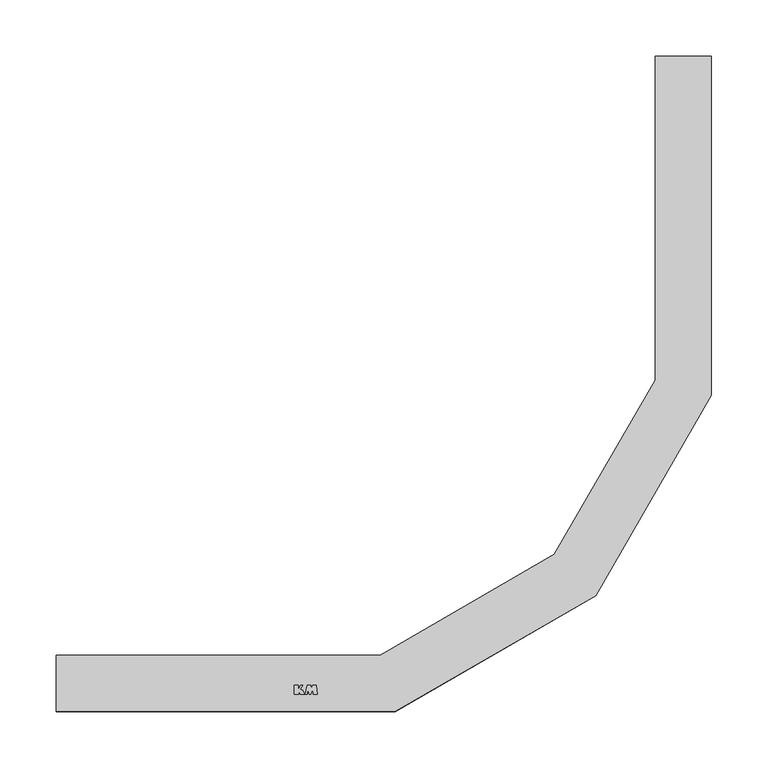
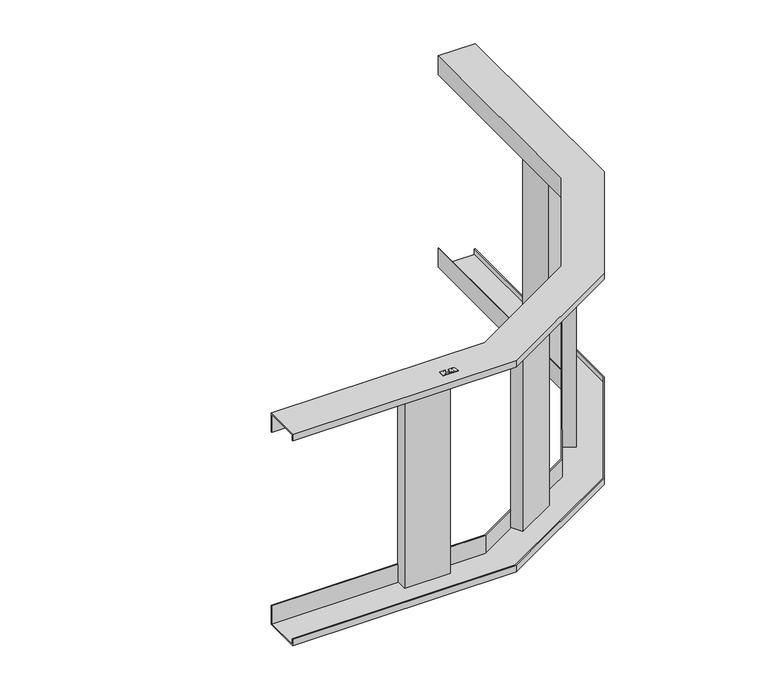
"""IFC4 building model written with IfcOpenShell, lengths in millimetres: cable carrier fitting geometry, КМ Профиль L Угол вертикальный внешний «Быстрый монтаж» 90° : Угол вертикальный внешний «Быстрый монтаж» 90°."""

from ifc_helpers import new_model, si_unit, frame, origin, place, context, project, spatial, polyline, outline, extrude, faceted_brep, source, transform, mapped, element, save


def cable_carrier_fitting_c130e9fd(model_context):
    return source(origin(), model_context, "Body", "SolidModel", [
        extrude(outline(polyline([(-344.2388781, -1.986157), (-340.7316192, -1.986157), (-340.7316192, -5.564509), (-338.8289757, -1.986157), (-336.703011, -1.986157), (-339.1694955, -5.5086619), (-336.9277444, -6.194034), (-335.0604353, -9.737421), (-338.9588467, -9.737421), (-340.6630512, -6.5720802), (-340.6630512, -9.737421), (-344.2388781, -9.737421), (-344.2388781, -1.986157)])), frame((0.0, 0.0, 150.0), z_axis=(0.0, 0.0, 1.0), x_axis=(1.0, 0.0, 0.0)), (0.0, 0.0, 1.0), 0.8),
        extrude(outline(polyline([(-332.9962759, -9.737421), (-334.8943395, -9.737421), (-333.0740589, -1.9647569), (-330.0433304, -1.9647569), (-329.2768297, -5.0390232), (-328.2555223, -1.9623682), (-325.0615674, -1.9623682), (-323.8700699, -9.7429915), (-327.7725105, -9.7429915), (-328.2500032, -5.0541919), (-329.7300717, -9.7434681), (-331.2045824, -9.7434681), (-332.6126012, -5.0696135), (-332.9962759, -9.737421)])), frame((0.0, 0.0, 150.0), z_axis=(0.0, 0.0, 1.0), x_axis=(1.0, 0.0, 0.0)), (0.0, 0.0, 1.0), 0.8),
        extrude(outline(polyline([(-324.5, 23.8), (-324.5, 7.8), (-385.5, 7.8), (-385.5, 23.8), (-324.5, 23.8)])), frame((0.0, 0.0, -147.6), z_axis=(0.0, 0.0, 1.0), x_axis=(1.0, 0.0, 0.0)), (0.0, 0.0, 1.0), 295.2),
        extrude(outline(polyline([(-164.2297817, 83.7555962), (-156.2297817, 69.8991898), (-209.0573313, 39.3991898), (-217.0573313, 53.2555962), (-164.2297817, 83.7555962)])), frame((0.0, 0.0, -147.6), z_axis=(0.0, 0.0, 1.0), x_axis=(1.0, 0.0, 0.0)), (0.0, 0.0, 1.0), 295.2),
        extrude(outline(polyline([(-39.3991898, 209.0573313), (-69.8991898, 156.2297817), (-83.7555962, 164.2297817), (-53.2555962, 217.0573313), (-39.3991898, 209.0573313)])), frame((0.0, 0.0, -147.6), z_axis=(0.0, 0.0, 1.0), x_axis=(1.0, 0.0, 0.0)), (0.0, 0.0, 1.0), 295.2),
        extrude(outline(polyline([(-7.8, 360.5), (-7.8, 299.5), (-23.8, 299.5), (-23.8, 360.5), (-7.8, 360.5)])), frame((0.0, 0.0, -147.6), z_axis=(0.0, 0.0, 1.0), x_axis=(1.0, 0.0, 0.0)), (0.0, 0.0, 1.0), 295.2),
        faceted_brep([(-555.0, -25.0, 150.0), (-555.0, 25.0, 150.0), (-555.0, 25.0, 123.0), (-555.0, 23.8, 123.0), (-555.0, 23.8, 148.8), (-555.0, -23.8, 148.8), (-555.0, -23.8, 141.0), (-555.0, -25.0, 141.0), (-255.0, -25.0, 150.0), (-77.4871131, 77.4871131, 150.0), (25.0, 255.0, 150.0), (25.0, 555.0, 150.0), (-25.0, 555.0, 150.0), (-25.0, 268.3974596, 150.0), (-114.0896534, 114.0896534, 150.0), (-268.3974596, 25.0, 150.0), (-268.3974596, 25.0, 123.0), (-255.321539, -23.8, 141.0), (-78.365574, 78.365574, 141.0), (23.8, 255.321539, 141.0), (23.8, 555.0, 141.0), (25.0, 555.0, 141.0), (25.0, 255.0, 141.0), (-77.4871131, 77.4871131, 141.0), (-255.0, -25.0, 141.0), (-114.0896534, 114.0896534, 123.0), (-25.0, 268.3974596, 123.0), (23.8, 555.0, 148.8), (-23.8, 555.0, 148.8), (-23.8, 555.0, 123.0), (-25.0, 555.0, 123.0), (-23.8, 268.0759206, 123.0), (-113.2111925, 113.2111925, 123.0), (-268.0759206, 23.8, 123.0), (-268.0759206, 23.8, 148.8), (-113.2111925, 113.2111925, 148.8), (-23.8, 268.0759206, 148.8), (23.8, 255.321539, 148.8), (-78.365574, 78.365574, 148.8), (-255.321539, -23.8, 148.8)], [[[0, 1, 2, 3, 4, 5, 6, 7]], [[1, 0, 8, 9, 10, 11, 12, 13, 14, 15]], [[2, 1, 15, 16]], [[7, 6, 17, 18, 19, 20, 21, 22, 23, 24]], [[0, 7, 24, 8]], [[16, 15, 14, 25]], [[8, 24, 23, 9]], [[25, 14, 13, 26]], [[9, 23, 22, 10]], [[11, 21, 20, 27, 28, 29, 30, 12]], [[26, 13, 12, 30]], [[10, 22, 21, 11]], [[3, 2, 16, 25, 26, 30, 29, 31, 32, 33]], [[4, 3, 33, 34]], [[5, 4, 34, 35, 36, 28, 27, 37, 38, 39]], [[6, 5, 39, 17]], [[34, 33, 32, 35]], [[17, 39, 38, 18]], [[35, 32, 31, 36]], [[18, 38, 37, 19]], [[36, 31, 29, 28]], [[19, 37, 27, 20]]]),
        faceted_brep([(-555.0, -25.0, -141.0), (-555.0, -23.8, -141.0), (-555.0, -23.8, -148.8), (-555.0, 23.8, -148.8), (-555.0, 23.8, -123.0), (-555.0, 25.0, -123.0), (-555.0, 25.0, -150.0), (-555.0, -25.0, -150.0), (-255.0, -25.0, -141.0), (-77.4871131, 77.4871131, -141.0), (25.0, 255.0, -141.0), (25.0, 555.0, -141.0), (23.8, 555.0, -141.0), (23.8, 255.321539, -141.0), (-78.365574, 78.365574, -141.0), (-255.321539, -23.8, -141.0), (-268.3974596, 25.0, -123.0), (-268.3974596, 25.0, -150.0), (-114.0896534, 114.0896534, -150.0), (-25.0, 268.3974596, -150.0), (-25.0, 555.0, -150.0), (25.0, 555.0, -150.0), (25.0, 255.0, -150.0), (-77.4871131, 77.4871131, -150.0), (-255.0, -25.0, -150.0), (-114.0896534, 114.0896534, -123.0), (-25.0, 268.3974596, -123.0), (-25.0, 555.0, -123.0), (-23.8, 555.0, -123.0), (-23.8, 555.0, -148.8), (23.8, 555.0, -148.8), (-255.321539, -23.8, -148.8), (-78.365574, 78.365574, -148.8), (23.8, 255.321539, -148.8), (-23.8, 268.0759206, -148.8), (-113.2111925, 113.2111925, -148.8), (-268.0759206, 23.8, -148.8), (-268.0759206, 23.8, -123.0), (-113.2111925, 113.2111925, -123.0), (-23.8, 268.0759206, -123.0)], [[[0, 1, 2, 3, 4, 5, 6, 7]], [[1, 0, 8, 9, 10, 11, 12, 13, 14, 15]], [[6, 5, 16, 17]], [[7, 6, 17, 18, 19, 20, 21, 22, 23, 24]], [[0, 7, 24, 8]], [[17, 16, 25, 18]], [[8, 24, 23, 9]], [[18, 25, 26, 19]], [[9, 23, 22, 10]], [[11, 21, 20, 27, 28, 29, 30, 12]], [[19, 26, 27, 20]], [[10, 22, 21, 11]], [[2, 1, 15, 31]], [[3, 2, 31, 32, 33, 30, 29, 34, 35, 36]], [[4, 3, 36, 37]], [[5, 4, 37, 38, 39, 28, 27, 26, 25, 16]], [[31, 15, 14, 32]], [[37, 36, 35, 38]], [[32, 14, 13, 33]], [[38, 35, 34, 39]], [[33, 13, 12, 30]], [[39, 34, 29, 28]]]),
    ])


if __name__ == "__main__":
    model = new_model("IFC4")
    model_context = context("Model", 3, world=origin())
    ifc_project = project(units=[si_unit("LENGTHUNIT", "METRE", prefix="MILLI")], contexts=[model_context])
    site = spatial("IfcSite", under=ifc_project)
    building = spatial("IfcBuilding", under=site)
    placement = place(None, origin())
    cable_carrier_fitting_shape = cable_carrier_fitting_c130e9fd(model_context)
    element("IfcCableCarrierFitting", 1, ObjectType="КМ Профиль L Угол вертикальный внешний «Быстрый монтаж» 90° : Угол вертикальный внешний «Быстрый монтаж» 90°", at=placement, inside=building, context=model_context, shape_type="MappedRepresentation", body=[
        mapped(cable_carrier_fitting_shape, transform((0.0, 0.0, 0.0), x_axis=(1.0, 0.0, 0.0), y_axis=(0.0, 1.0, 0.0), z_axis=(0.0, 0.0, 1.0))),
    ])
    save(model, "model.ifc")
